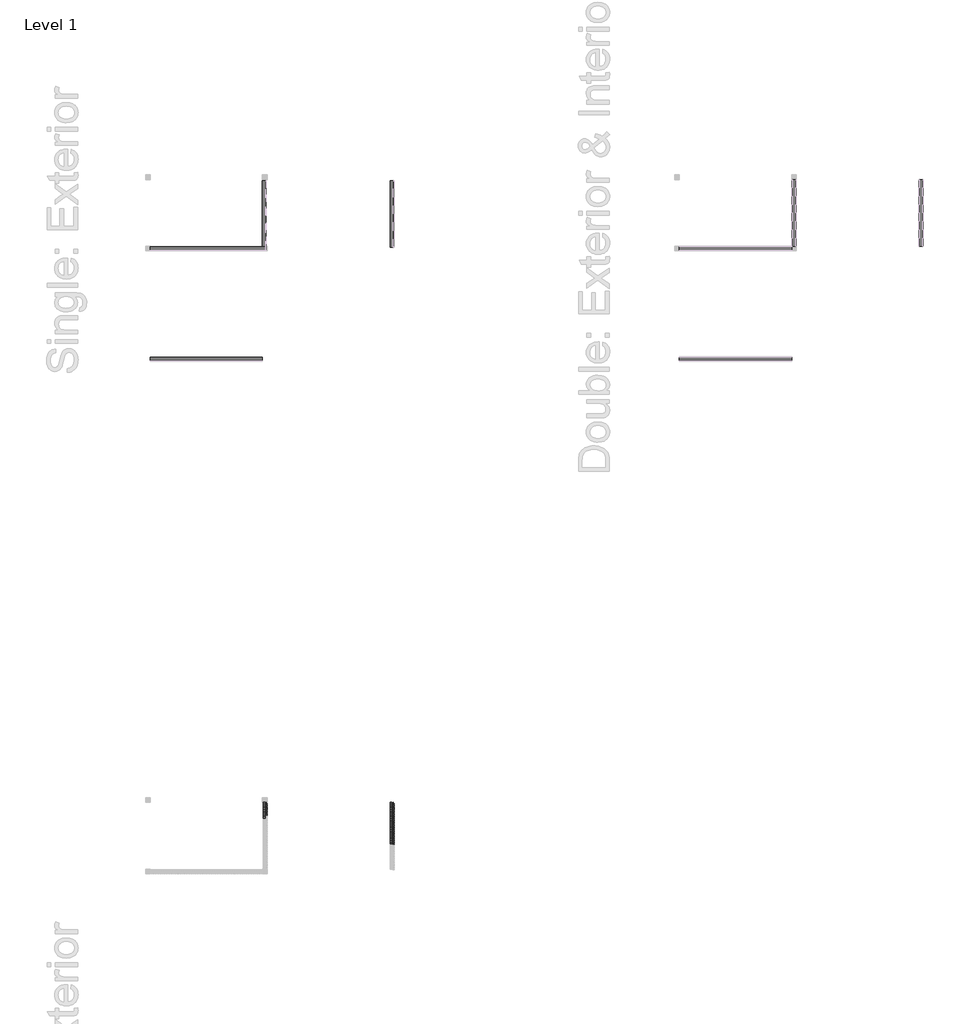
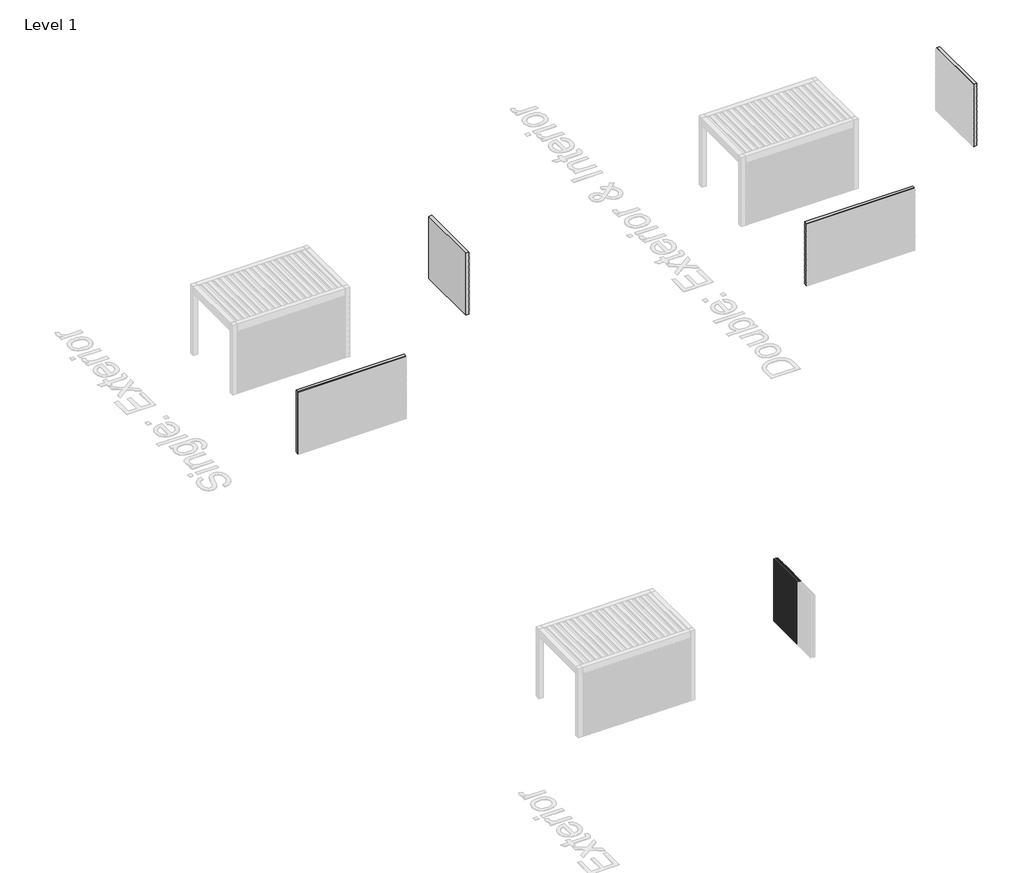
# One storey, part 6 of 69: 40 plates, 30 members.
"""IFC4 building model written with IfcOpenShell, lengths in millimetres."""

from ifc_helpers import new_model, si_unit, origin, origin_with_axes, place, context, project, spatial, polyline, outline, extrude, faceted_brep, transform, mapped, element, save
from components import rectangular_mullion_72383e52, rectangular_mullion_f26adc31

model = new_model("IFC4")

# Units and contexts
model_context = context("Model", 3, world=origin())
ifc_project = project(units=[si_unit("LENGTHUNIT", "METRE", prefix="MILLI")], contexts=[model_context])

# Site, building, storey
site = spatial("IfcSite", under=ifc_project)
building = spatial("IfcBuilding", under=site)
storey = spatial("IfcBuildingStorey", under=building, Name="Level 1", Elevation=0.0)

# Members
placement = place(None, origin())
rectangular_mullion_shape = rectangular_mullion_72383e52(model_context)
element("IfcMember", 1, ObjectType="Rectangular Mullion : Renson_Linarte_LA-B30-01", at=placement, inside=storey, context=model_context, shape_type="MappedRepresentation", body=[
    mapped(rectangular_mullion_shape, transform((215057.0900207, 20048.8290758, 0.0), x_axis=(0.0, -1.0, 0.0), y_axis=(-1.0, 0.0, 0.0), z_axis=(0.0, 0.0, -1.0))),
])
element("IfcMember", 2, ObjectType="Rectangular Mullion : Renson_Linarte_LA-B30-01", at=placement, inside=storey, context=model_context, shape_type="MappedRepresentation", body=[
    mapped(rectangular_mullion_shape, transform((215057.0900207, 20108.8290758, 0.0), x_axis=(0.0, -1.0, 0.0), y_axis=(-1.0, 0.0, 0.0), z_axis=(0.0, 0.0, -1.0))),
])
element("IfcMember", 3, ObjectType="Rectangular Mullion : Renson_Linarte_LA-B30-01", at=placement, inside=storey, context=model_context, shape_type="MappedRepresentation", body=[
    mapped(rectangular_mullion_shape, transform((215057.0900207, 20168.8290758, 0.0), x_axis=(0.0, -1.0, 0.0), y_axis=(-1.0, 0.0, 0.0), z_axis=(0.0, 0.0, -1.0))),
])
element("IfcMember", 4, ObjectType="Rectangular Mullion : Renson_Linarte_LA-B30-01", at=placement, inside=storey, context=model_context, shape_type="MappedRepresentation", body=[
    mapped(rectangular_mullion_shape, transform((215057.0900207, 20228.8290758, 0.0), x_axis=(0.0, -1.0, 0.0), y_axis=(-1.0, 0.0, 0.0), z_axis=(0.0, 0.0, -1.0))),
])
element("IfcMember", 5, ObjectType="Rectangular Mullion : Renson_Linarte_LA-B30-01", at=placement, inside=storey, context=model_context, shape_type="MappedRepresentation", body=[
    mapped(rectangular_mullion_shape, transform((215057.0900207, 20288.8290758, 0.0), x_axis=(0.0, -1.0, 0.0), y_axis=(-1.0, 0.0, 0.0), z_axis=(0.0, 0.0, -1.0))),
])
element("IfcMember", 6, ObjectType="Rectangular Mullion : Renson_Linarte_LA-B30-01", at=placement, inside=storey, context=model_context, shape_type="MappedRepresentation", body=[
    mapped(rectangular_mullion_shape, transform((215057.0900207, 20348.8290758, 0.0), x_axis=(0.0, -1.0, 0.0), y_axis=(-1.0, 0.0, 0.0), z_axis=(0.0, 0.0, -1.0))),
])
element("IfcMember", 7, ObjectType="Rectangular Mullion : Renson_Linarte_LA-B30-01", at=placement, inside=storey, context=model_context, shape_type="MappedRepresentation", body=[
    mapped(rectangular_mullion_shape, transform((215057.0900207, 20408.8290758, 0.0), x_axis=(0.0, -1.0, 0.0), y_axis=(-1.0, 0.0, 0.0), z_axis=(0.0, 0.0, -1.0))),
])
element("IfcMember", 8, ObjectType="Rectangular Mullion : Renson_Linarte_LA-B30-01", at=placement, inside=storey, context=model_context, shape_type="MappedRepresentation", body=[
    mapped(rectangular_mullion_shape, transform((215057.0900207, 20468.8290758, 0.0), x_axis=(0.0, -1.0, 0.0), y_axis=(-1.0, 0.0, 0.0), z_axis=(0.0, 0.0, -1.0))),
])
element("IfcMember", 9, ObjectType="Rectangular Mullion : Renson_Linarte_LA-B30-01", at=placement, inside=storey, context=model_context, shape_type="MappedRepresentation", body=[
    mapped(rectangular_mullion_shape, transform((215057.0900207, 20528.8290758, 0.0), x_axis=(0.0, -1.0, 0.0), y_axis=(-1.0, 0.0, 0.0), z_axis=(0.0, 0.0, -1.0))),
])
element("IfcMember", 10, ObjectType="Rectangular Mullion : Renson_Linarte_LA-B30-01", at=placement, inside=storey, context=model_context, shape_type="MappedRepresentation", body=[
    mapped(rectangular_mullion_shape, transform((215057.0900207, 20588.8290758, 0.0), x_axis=(0.0, -1.0, 0.0), y_axis=(-1.0, 0.0, 0.0), z_axis=(0.0, 0.0, -1.0))),
])
element("IfcMember", 11, ObjectType="Rectangular Mullion : Renson_Linarte_LA-B30-01", at=placement, inside=storey, context=model_context, shape_type="MappedRepresentation", body=[
    mapped(rectangular_mullion_shape, transform((215057.0900207, 20648.8290758, 0.0), x_axis=(0.0, -1.0, 0.0), y_axis=(-1.0, 0.0, 0.0), z_axis=(0.0, 0.0, -1.0))),
])
element("IfcMember", 12, ObjectType="Rectangular Mullion : Renson_Linarte_LA-B30-01", at=placement, inside=storey, context=model_context, shape_type="MappedRepresentation", body=[
    mapped(rectangular_mullion_shape, transform((215057.0900207, 20708.8290758, 0.0), x_axis=(0.0, -1.0, 0.0), y_axis=(-1.0, 0.0, 0.0), z_axis=(0.0, 0.0, -1.0))),
])
element("IfcMember", 13, ObjectType="Rectangular Mullion : Renson_Linarte_LA-B30-01", at=placement, inside=storey, context=model_context, shape_type="MappedRepresentation", body=[
    mapped(rectangular_mullion_shape, transform((215057.0900207, 20768.8290758, 0.0), x_axis=(0.0, -1.0, 0.0), y_axis=(-1.0, 0.0, 0.0), z_axis=(0.0, 0.0, -1.0))),
])
element("IfcMember", 14, ObjectType="Rectangular Mullion : Renson_Linarte_LA-B30-01", at=placement, inside=storey, context=model_context, shape_type="MappedRepresentation", body=[
    mapped(rectangular_mullion_shape, transform((215057.0900207, 20828.8290758, 0.0), x_axis=(0.0, -1.0, 0.0), y_axis=(-1.0, 0.0, 0.0), z_axis=(0.0, 0.0, -1.0))),
])
element("IfcMember", 15, ObjectType="Rectangular Mullion : Renson_Linarte_LA-B30-01", at=placement, inside=storey, context=model_context, shape_type="MappedRepresentation", body=[
    mapped(rectangular_mullion_shape, transform((215057.0900207, 20888.8290758, 0.0), x_axis=(0.0, -1.0, 0.0), y_axis=(-1.0, 0.0, 0.0), z_axis=(0.0, 0.0, -1.0))),
])
element("IfcMember", 16, ObjectType="Rectangular Mullion : Renson_Linarte_LA-B30-01", at=placement, inside=storey, context=model_context, shape_type="MappedRepresentation", body=[
    mapped(rectangular_mullion_shape, transform((215057.0900207, 20948.8290758, 0.0), x_axis=(0.0, -1.0, 0.0), y_axis=(-1.0, 0.0, 0.0), z_axis=(0.0, 0.0, -1.0))),
])
element("IfcMember", 17, ObjectType="Rectangular Mullion : Renson_Linarte_LA-B30-01", at=placement, inside=storey, context=model_context, shape_type="MappedRepresentation", body=[
    mapped(rectangular_mullion_shape, transform((215057.0900207, 21008.8290758, 0.0), x_axis=(0.0, -1.0, 0.0), y_axis=(-1.0, 0.0, 0.0), z_axis=(0.0, 0.0, -1.0))),
])
element("IfcMember", 18, ObjectType="Rectangular Mullion : Renson_Linarte_LA-B30-01", at=placement, inside=storey, context=model_context, shape_type="MappedRepresentation", body=[
    mapped(rectangular_mullion_shape, transform((215057.0900207, 21068.8290758, 0.0), x_axis=(0.0, -1.0, 0.0), y_axis=(-1.0, 0.0, 0.0), z_axis=(0.0, 0.0, -1.0))),
])
element("IfcMember", 19, ObjectType="Rectangular Mullion : Renson_Linarte_LA-B30-01", at=placement, inside=storey, context=model_context, shape_type="MappedRepresentation", body=[
    mapped(rectangular_mullion_shape, transform((215057.0900207, 21128.8290758, 0.0), x_axis=(0.0, -1.0, 0.0), y_axis=(-1.0, 0.0, 0.0), z_axis=(0.0, 0.0, -1.0))),
])
element("IfcMember", 20, ObjectType="Rectangular Mullion : Renson_Linarte_LA-B30-01", at=placement, inside=storey, context=model_context, shape_type="MappedRepresentation", body=[
    mapped(rectangular_mullion_shape, transform((215057.0900207, 21188.8290758, 0.0), x_axis=(0.0, -1.0, 0.0), y_axis=(-1.0, 0.0, 0.0), z_axis=(0.0, 0.0, -1.0))),
])
element("IfcMember", 21, ObjectType="Rectangular Mullion : Renson_Linarte_LA-B30-01", at=placement, inside=storey, context=model_context, shape_type="MappedRepresentation", body=[
    mapped(rectangular_mullion_shape, transform((215057.0900207, 21248.8290758, 0.0), x_axis=(0.0, -1.0, 0.0), y_axis=(-1.0, 0.0, 0.0), z_axis=(0.0, 0.0, -1.0))),
])
element("IfcMember", 22, ObjectType="Rectangular Mullion : Renson_Linarte_LA-B30-01", at=placement, inside=storey, context=model_context, shape_type="MappedRepresentation", body=[
    mapped(rectangular_mullion_shape, transform((215057.0900207, 21308.8290758, 0.0), x_axis=(0.0, -1.0, 0.0), y_axis=(-1.0, 0.0, 0.0), z_axis=(0.0, 0.0, -1.0))),
])
element("IfcMember", 23, ObjectType="Rectangular Mullion : Renson_Linarte_LA-B30-01", at=placement, inside=storey, context=model_context, shape_type="MappedRepresentation", body=[
    mapped(rectangular_mullion_shape, transform((210877.4749426, 21008.8290758, 0.0), x_axis=(0.0, -1.0, 0.0), y_axis=(-1.0, 0.0, 0.0), z_axis=(0.0, 0.0, -1.0))),
])
element("IfcMember", 24, ObjectType="Rectangular Mullion : Renson_Linarte_LA-B30-01", at=placement, inside=storey, context=model_context, shape_type="MappedRepresentation", body=[
    mapped(rectangular_mullion_shape, transform((210877.4749426, 21068.8290758, 0.0), x_axis=(0.0, -1.0, 0.0), y_axis=(-1.0, 0.0, 0.0), z_axis=(0.0, 0.0, -1.0))),
])
element("IfcMember", 25, ObjectType="Rectangular Mullion : Renson_Linarte_LA-B30-01", at=placement, inside=storey, context=model_context, shape_type="MappedRepresentation", body=[
    mapped(rectangular_mullion_shape, transform((210877.4749426, 21128.8290758, 0.0), x_axis=(0.0, -1.0, 0.0), y_axis=(-1.0, 0.0, 0.0), z_axis=(0.0, 0.0, -1.0))),
])
element("IfcMember", 26, ObjectType="Rectangular Mullion : Renson_Linarte_LA-B30-01", at=placement, inside=storey, context=model_context, shape_type="MappedRepresentation", body=[
    mapped(rectangular_mullion_shape, transform((210877.4749426, 21188.8290758, 0.0), x_axis=(0.0, -1.0, 0.0), y_axis=(-1.0, 0.0, 0.0), z_axis=(0.0, 0.0, -1.0))),
])
element("IfcMember", 27, ObjectType="Rectangular Mullion : Renson_Linarte_LA-B30-01", at=placement, inside=storey, context=model_context, shape_type="MappedRepresentation", body=[
    mapped(rectangular_mullion_shape, transform((210877.4749426, 21248.8290758, 0.0), x_axis=(0.0, -1.0, 0.0), y_axis=(-1.0, 0.0, 0.0), z_axis=(0.0, 0.0, -1.0))),
])
element("IfcMember", 28, ObjectType="Rectangular Mullion : Renson_Linarte_LA-B30-01", at=placement, inside=storey, context=model_context, shape_type="MappedRepresentation", body=[
    mapped(rectangular_mullion_shape, transform((210877.4749426, 21308.8290758, 0.0), x_axis=(0.0, -1.0, 0.0), y_axis=(-1.0, 0.0, 0.0), z_axis=(0.0, 0.0, -1.0))),
])
rectangular_mullion_2_shape = rectangular_mullion_f26adc31(model_context)
element("IfcMember", 29, ObjectType="Rectangular Mullion : Renson_Linarte_LA-B30-01", at=placement, inside=storey, context=model_context, shape_type="MappedRepresentation", body=[
    mapped(rectangular_mullion_2_shape, transform((215057.0900207, 21368.8290761, 2250.0), x_axis=(0.0, 1.0, 0.0), y_axis=(-1.0, 0.0, 0.0), z_axis=(0.0, 0.0, 1.0))),
])
element("IfcMember", 30, ObjectType="Rectangular Mullion : Renson_Linarte_LA-B30-01", at=placement, inside=storey, context=model_context, shape_type="MappedRepresentation", body=[
    mapped(rectangular_mullion_2_shape, transform((210877.4749426, 21368.8290761, 2250.0), x_axis=(0.0, 1.0, 0.0), y_axis=(-1.0, 0.0, 0.0), z_axis=(0.0, 0.0, 1.0))),
])

# Plates
element("IfcPlate", 31, ObjectType="Linius - L.033.01_renson_single", at=placement, inside=storey, context=model_context, shape_type="SweptSolid", body=[
    extrude(outline(polyline([(207125.5749426, 36024.4955424), (210825.5749426, 36024.4955424), (210825.5749426, 35915.4955424), (207125.5749426, 35915.4955424), (207125.5749426, 36024.4955424)])), origin_with_axes(), (0.0, 0.0, 1.0), 2250.0),
])
element("IfcPlate", 32, ObjectType="Linius - L.033.01_Renson_double", at=placement, inside=storey, context=model_context, shape_type="Brep", body=[
    faceted_brep([(228250.5749426, 36024.4955424, 0.0), (224550.5749426, 36024.4955424, 0.0), (224550.5749426, 36024.4955424, 1951.0345698), (224550.5749426, 36024.4955424, 1964.7), (224550.5749426, 36024.4955424, 2250.0), (228250.5749426, 36024.4955424, 2250.0), (228250.5749426, 36024.4955424, 1964.7), (228250.5749426, 36024.4955424, 1951.0345698), (228250.5749426, 35915.4955424, 0.0), (228250.5749426, 35915.4955424, 2250.0), (224550.5749426, 35915.4955424, 2250.0), (224550.5749426, 35915.4955424, 0.0)], [[[0, 1, 2, 3, 4, 5, 6, 7]], [[8, 9, 10, 11]], [[1, 0, 8, 11]], [[4, 3, 2, 1, 11, 10]], [[5, 4, 10, 9]], [[0, 7, 6, 5, 9, 8]]]),
])
element("IfcPlate", 33, ObjectType="Linius - L.033.01_renson_single", at=placement, inside=storey, context=model_context, shape_type="Brep", body=[
    faceted_brep([(210934.0900207, 39661.1593685, 0.0), (210825.0900207, 39661.1593685, 0.0), (207125.5749426, 39661.1593685, 0.0), (207125.5749426, 39661.1593685, 2250.0), (210825.0900207, 39661.1593685, 2250.0), (210934.0900207, 39661.1593685, 2250.0), (207125.5749426, 39552.1593685, 0.0), (210934.0900207, 39552.1593685, 0.0), (210934.0900207, 39552.1593685, 2250.0), (207125.5749426, 39552.1593685, 2250.0)], [[[0, 1, 2, 3, 4, 5]], [[6, 7, 8, 9]], [[2, 1, 0, 7, 6]], [[3, 2, 6, 9]], [[5, 4, 3, 9, 8]], [[0, 5, 8, 7]]]),
])
element("IfcPlate", 34, ObjectType="Linius - L.033.01_Renson_double", at=placement, inside=storey, context=model_context, shape_type="Brep", body=[
    faceted_brep([(228250.5749426, 39651.1593685, 0.0), (224550.5749426, 39651.1593685, 0.0), (224550.5749426, 39651.1593685, 1951.0345698), (224550.5749426, 39651.1593685, 1964.7), (224550.5749426, 39651.1593685, 2250.0), (228250.5749426, 39651.1593685, 2250.0), (228250.5749426, 39651.1593685, 1964.7), (228250.5749426, 39651.1593685, 1951.0345698), (228250.5749426, 39542.1593685, 0.0), (228250.5749426, 39542.1593685, 2250.0), (224550.5749426, 39542.1593685, 2250.0), (224550.5749426, 39542.1593685, 0.0)], [[[0, 1, 2, 3, 4, 5, 6, 7]], [[8, 9, 10, 11]], [[1, 0, 8, 11]], [[4, 3, 2, 1, 11, 10]], [[5, 4, 10, 9]], [[0, 7, 6, 5, 9, 8]]]),
])
element("IfcPlate", 35, ObjectType="Linius - L.033.01_renson_single", at=placement, inside=storey, context=model_context, shape_type="SweptSolid", body=[
    extrude(outline(polyline([(215025.0900207, 39638.6636399), (215025.0900207, 41838.6636399), (215134.0900207, 41838.6636399), (215134.0900207, 39638.6636399), (215025.0900207, 39638.6636399)])), origin_with_axes(), (0.0, 0.0, 1.0), 2250.0),
])
element("IfcPlate", 36, ObjectType="Linius - L.033.01_Renson_double", at=placement, inside=storey, context=model_context, shape_type="Brep", body=[
    faceted_brep([(232450.0900207, 41872.1593685, 0.0), (232450.0900207, 39672.1593685, 0.0), (232450.0900207, 39672.1593685, 1951.0345698), (232450.0900207, 39672.1593685, 1964.7), (232450.0900207, 39672.1593685, 2250.0), (232450.0900207, 41872.1593685, 2250.0), (232450.0900207, 41872.1593685, 1964.7), (232450.0900207, 41872.1593685, 1951.0345698), (232559.0900207, 41872.1593685, 0.0), (232559.0900207, 41872.1593685, 2250.0), (232559.0900207, 39672.1593685, 2250.0), (232559.0900207, 39672.1593685, 0.0)], [[[0, 1, 2, 3, 4, 5, 6, 7]], [[8, 9, 10, 11]], [[1, 0, 8, 11]], [[4, 3, 2, 1, 11, 10]], [[5, 4, 10, 9]], [[0, 7, 6, 5, 9, 8]]]),
])
element("IfcPlate", 37, ObjectType="Linius - L.033.01_Renson_double", at=placement, inside=storey, context=model_context, shape_type="Brep", body=[
    faceted_brep([(228270.0900207, 41872.1593685, 0.0), (228270.0900207, 39672.1593685, 0.0), (228270.0900207, 39672.1593685, 1951.0345698), (228270.0900207, 39672.1593685, 1964.7), (228270.0900207, 39672.1593685, 2250.0), (228270.0900207, 41872.1593685, 2250.0), (228270.0900207, 41872.1593685, 1964.7), (228270.0900207, 41872.1593685, 1951.0345698), (228379.0900207, 41872.1593685, 0.0), (228379.0900207, 41872.1593685, 2250.0), (228379.0900207, 39672.1593685, 2250.0), (228379.0900207, 39672.1593685, 0.0)], [[[0, 1, 2, 3, 4, 5, 6, 7]], [[8, 9, 10, 11]], [[1, 0, 8, 11]], [[4, 3, 2, 1, 11, 10]], [[5, 4, 10, 9]], [[0, 7, 6, 5, 9, 8]]]),
])
element("IfcPlate", 38, ObjectType="Linius - L.033.01_renson_single", at=placement, inside=storey, context=model_context, shape_type="SweptSolid", body=[
    extrude(outline(polyline([(210825.0900207, 39661.1593685), (210825.0900207, 41838.6636399), (210934.0900207, 41838.6636399), (210934.0900207, 39661.1593685), (210825.0900207, 39661.1593685)])), origin_with_axes(), (0.0, 0.0, 1.0), 2250.0),
])
element("IfcPlate", 39, ObjectType="Base - 64mm", at=placement, inside=storey, context=model_context, shape_type="SweptSolid", body=[
    extrude(outline(polyline([(215025.0900207, 19988.8290758), (215025.0900207, 20048.8290758), (215089.0900207, 20048.8290758), (215089.0900207, 19988.8290758), (215025.0900207, 19988.8290758)])), origin_with_axes(), (0.0, 0.0, 1.0), 2250.0),
])
element("IfcPlate", 40, ObjectType="Base - 64mm", at=placement, inside=storey, context=model_context, shape_type="SweptSolid", body=[
    extrude(outline(polyline([(215025.0900207, 20048.8290758), (215025.0900207, 20108.8290758), (215089.0900207, 20108.8290758), (215089.0900207, 20048.8290758), (215025.0900207, 20048.8290758)])), origin_with_axes(), (0.0, 0.0, 1.0), 2250.0),
])
element("IfcPlate", 41, ObjectType="Base - 64mm", at=placement, inside=storey, context=model_context, shape_type="SweptSolid", body=[
    extrude(outline(polyline([(215025.0900207, 20108.8290758), (215025.0900207, 20168.8290758), (215089.0900207, 20168.8290758), (215089.0900207, 20108.8290758), (215025.0900207, 20108.8290758)])), origin_with_axes(), (0.0, 0.0, 1.0), 2250.0),
])
element("IfcPlate", 42, ObjectType="Base - 64mm", at=placement, inside=storey, context=model_context, shape_type="SweptSolid", body=[
    extrude(outline(polyline([(215025.0900207, 20168.8290758), (215025.0900207, 20228.8290758), (215089.0900207, 20228.8290758), (215089.0900207, 20168.8290758), (215025.0900207, 20168.8290758)])), origin_with_axes(), (0.0, 0.0, 1.0), 2250.0),
])
element("IfcPlate", 43, ObjectType="Base - 64mm", at=placement, inside=storey, context=model_context, shape_type="SweptSolid", body=[
    extrude(outline(polyline([(215025.0900207, 20228.8290758), (215025.0900207, 20288.8290758), (215089.0900207, 20288.8290758), (215089.0900207, 20228.8290758), (215025.0900207, 20228.8290758)])), origin_with_axes(), (0.0, 0.0, 1.0), 2250.0),
])
element("IfcPlate", 44, ObjectType="Base - 64mm", at=placement, inside=storey, context=model_context, shape_type="SweptSolid", body=[
    extrude(outline(polyline([(215025.0900207, 20288.8290758), (215025.0900207, 20348.8290758), (215089.0900207, 20348.8290758), (215089.0900207, 20288.8290758), (215025.0900207, 20288.8290758)])), origin_with_axes(), (0.0, 0.0, 1.0), 2250.0),
])
element("IfcPlate", 45, ObjectType="Base - 64mm", at=placement, inside=storey, context=model_context, shape_type="SweptSolid", body=[
    extrude(outline(polyline([(215025.0900207, 20348.8290758), (215025.0900207, 20408.8290758), (215089.0900207, 20408.8290758), (215089.0900207, 20348.8290758), (215025.0900207, 20348.8290758)])), origin_with_axes(), (0.0, 0.0, 1.0), 2250.0),
])
element("IfcPlate", 46, ObjectType="Base - 64mm", at=placement, inside=storey, context=model_context, shape_type="SweptSolid", body=[
    extrude(outline(polyline([(215025.0900207, 20408.8290758), (215025.0900207, 20468.8290758), (215089.0900207, 20468.8290758), (215089.0900207, 20408.8290758), (215025.0900207, 20408.8290758)])), origin_with_axes(), (0.0, 0.0, 1.0), 2250.0),
])
element("IfcPlate", 47, ObjectType="Base - 64mm", at=placement, inside=storey, context=model_context, shape_type="SweptSolid", body=[
    extrude(outline(polyline([(215025.0900207, 20468.8290758), (215025.0900207, 20528.8290758), (215089.0900207, 20528.8290758), (215089.0900207, 20468.8290758), (215025.0900207, 20468.8290758)])), origin_with_axes(), (0.0, 0.0, 1.0), 2250.0),
])
element("IfcPlate", 48, ObjectType="Base - 64mm", at=placement, inside=storey, context=model_context, shape_type="SweptSolid", body=[
    extrude(outline(polyline([(215025.0900207, 20528.8290758), (215025.0900207, 20588.8290758), (215089.0900207, 20588.8290758), (215089.0900207, 20528.8290758), (215025.0900207, 20528.8290758)])), origin_with_axes(), (0.0, 0.0, 1.0), 2250.0),
])
element("IfcPlate", 49, ObjectType="Base - 64mm", at=placement, inside=storey, context=model_context, shape_type="SweptSolid", body=[
    extrude(outline(polyline([(215025.0900207, 20588.8290758), (215025.0900207, 20648.8290758), (215089.0900207, 20648.8290758), (215089.0900207, 20588.8290758), (215025.0900207, 20588.8290758)])), origin_with_axes(), (0.0, 0.0, 1.0), 2250.0),
])
element("IfcPlate", 50, ObjectType="Base - 64mm", at=placement, inside=storey, context=model_context, shape_type="SweptSolid", body=[
    extrude(outline(polyline([(215025.0900207, 20648.8290758), (215025.0900207, 20708.8290758), (215089.0900207, 20708.8290758), (215089.0900207, 20648.8290758), (215025.0900207, 20648.8290758)])), origin_with_axes(), (0.0, 0.0, 1.0), 2250.0),
])
element("IfcPlate", 51, ObjectType="Base - 64mm", at=placement, inside=storey, context=model_context, shape_type="SweptSolid", body=[
    extrude(outline(polyline([(215025.0900207, 20708.8290758), (215025.0900207, 20768.8290758), (215089.0900207, 20768.8290758), (215089.0900207, 20708.8290758), (215025.0900207, 20708.8290758)])), origin_with_axes(), (0.0, 0.0, 1.0), 2250.0),
])
element("IfcPlate", 52, ObjectType="Base - 64mm", at=placement, inside=storey, context=model_context, shape_type="SweptSolid", body=[
    extrude(outline(polyline([(215025.0900207, 20768.8290758), (215025.0900207, 20828.8290758), (215089.0900207, 20828.8290758), (215089.0900207, 20768.8290758), (215025.0900207, 20768.8290758)])), origin_with_axes(), (0.0, 0.0, 1.0), 2250.0),
])
element("IfcPlate", 53, ObjectType="Base - 64mm", at=placement, inside=storey, context=model_context, shape_type="SweptSolid", body=[
    extrude(outline(polyline([(215025.0900207, 20828.8290758), (215025.0900207, 20888.8290758), (215089.0900207, 20888.8290758), (215089.0900207, 20828.8290758), (215025.0900207, 20828.8290758)])), origin_with_axes(), (0.0, 0.0, 1.0), 2250.0),
])
element("IfcPlate", 54, ObjectType="Base - 64mm", at=placement, inside=storey, context=model_context, shape_type="SweptSolid", body=[
    extrude(outline(polyline([(215025.0900207, 20888.8290758), (215025.0900207, 20948.8290758), (215089.0900207, 20948.8290758), (215089.0900207, 20888.8290758), (215025.0900207, 20888.8290758)])), origin_with_axes(), (0.0, 0.0, 1.0), 2250.0),
])
element("IfcPlate", 55, ObjectType="Base - 64mm", at=placement, inside=storey, context=model_context, shape_type="SweptSolid", body=[
    extrude(outline(polyline([(215025.0900207, 20948.8290758), (215025.0900207, 21008.8290758), (215089.0900207, 21008.8290758), (215089.0900207, 20948.8290758), (215025.0900207, 20948.8290758)])), origin_with_axes(), (0.0, 0.0, 1.0), 2250.0),
])
element("IfcPlate", 56, ObjectType="Base - 64mm", at=placement, inside=storey, context=model_context, shape_type="SweptSolid", body=[
    extrude(outline(polyline([(215025.0900207, 21008.8290758), (215025.0900207, 21068.8290758), (215089.0900207, 21068.8290758), (215089.0900207, 21008.8290758), (215025.0900207, 21008.8290758)])), origin_with_axes(), (0.0, 0.0, 1.0), 2250.0),
])
element("IfcPlate", 57, ObjectType="Base - 64mm", at=placement, inside=storey, context=model_context, shape_type="SweptSolid", body=[
    extrude(outline(polyline([(215025.0900207, 21068.8290758), (215025.0900207, 21128.8290758), (215089.0900207, 21128.8290758), (215089.0900207, 21068.8290758), (215025.0900207, 21068.8290758)])), origin_with_axes(), (0.0, 0.0, 1.0), 2250.0),
])
element("IfcPlate", 58, ObjectType="Base - 64mm", at=placement, inside=storey, context=model_context, shape_type="SweptSolid", body=[
    extrude(outline(polyline([(215025.0900207, 21128.8290758), (215025.0900207, 21188.8290758), (215089.0900207, 21188.8290758), (215089.0900207, 21128.8290758), (215025.0900207, 21128.8290758)])), origin_with_axes(), (0.0, 0.0, 1.0), 2250.0),
])
element("IfcPlate", 59, ObjectType="Base - 64mm", at=placement, inside=storey, context=model_context, shape_type="SweptSolid", body=[
    extrude(outline(polyline([(215025.0900207, 21188.8290758), (215025.0900207, 21248.8290758), (215089.0900207, 21248.8290758), (215089.0900207, 21188.8290758), (215025.0900207, 21188.8290758)])), origin_with_axes(), (0.0, 0.0, 1.0), 2250.0),
])
element("IfcPlate", 60, ObjectType="Base - 64mm", at=placement, inside=storey, context=model_context, shape_type="SweptSolid", body=[
    extrude(outline(polyline([(215025.0900207, 21248.8290758), (215025.0900207, 21308.8290758), (215089.0900207, 21308.8290758), (215089.0900207, 21248.8290758), (215025.0900207, 21248.8290758)])), origin_with_axes(), (0.0, 0.0, 1.0), 2250.0),
])
element("IfcPlate", 61, ObjectType="Base - 64mm", at=placement, inside=storey, context=model_context, shape_type="SweptSolid", body=[
    extrude(outline(polyline([(215025.0900207, 21308.8290758), (215025.0900207, 21368.8290761), (215089.0900207, 21368.8290761), (215089.0900207, 21308.8290758), (215025.0900207, 21308.8290758)])), origin_with_axes(), (0.0, 0.0, 1.0), 2250.0),
])
element("IfcPlate", 62, ObjectType="Base - 64mm", at=placement, inside=storey, context=model_context, shape_type="SweptSolid", body=[
    extrude(outline(polyline([(210845.4749426, 20828.8290758), (210845.4749426, 20888.8290758), (210909.4749426, 20888.8290758), (210909.4749426, 20828.8290758), (210845.4749426, 20828.8290758)])), origin_with_axes(), (0.0, 0.0, 1.0), 2250.0),
])
element("IfcPlate", 63, ObjectType="Base - 64mm", at=placement, inside=storey, context=model_context, shape_type="SweptSolid", body=[
    extrude(outline(polyline([(210845.4749426, 20888.8290758), (210845.4749426, 20948.8290758), (210909.4749426, 20948.8290758), (210909.4749426, 20888.8290758), (210845.4749426, 20888.8290758)])), origin_with_axes(), (0.0, 0.0, 1.0), 2250.0),
])
element("IfcPlate", 64, ObjectType="Base - 64mm", at=placement, inside=storey, context=model_context, shape_type="SweptSolid", body=[
    extrude(outline(polyline([(210845.4749426, 20948.8290758), (210845.4749426, 21008.8290758), (210909.4749426, 21008.8290758), (210909.4749426, 20948.8290758), (210845.4749426, 20948.8290758)])), origin_with_axes(), (0.0, 0.0, 1.0), 2250.0),
])
element("IfcPlate", 65, ObjectType="Base - 64mm", at=placement, inside=storey, context=model_context, shape_type="SweptSolid", body=[
    extrude(outline(polyline([(210845.4749426, 21008.8290758), (210845.4749426, 21068.8290758), (210909.4749426, 21068.8290758), (210909.4749426, 21008.8290758), (210845.4749426, 21008.8290758)])), origin_with_axes(), (0.0, 0.0, 1.0), 2250.0),
])
element("IfcPlate", 66, ObjectType="Base - 64mm", at=placement, inside=storey, context=model_context, shape_type="SweptSolid", body=[
    extrude(outline(polyline([(210845.4749426, 21068.8290758), (210845.4749426, 21128.8290758), (210909.4749426, 21128.8290758), (210909.4749426, 21068.8290758), (210845.4749426, 21068.8290758)])), origin_with_axes(), (0.0, 0.0, 1.0), 2250.0),
])
element("IfcPlate", 67, ObjectType="Base - 64mm", at=placement, inside=storey, context=model_context, shape_type="SweptSolid", body=[
    extrude(outline(polyline([(210845.4749426, 21128.8290758), (210845.4749426, 21188.8290758), (210909.4749426, 21188.8290758), (210909.4749426, 21128.8290758), (210845.4749426, 21128.8290758)])), origin_with_axes(), (0.0, 0.0, 1.0), 2250.0),
])
element("IfcPlate", 68, ObjectType="Base - 64mm", at=placement, inside=storey, context=model_context, shape_type="SweptSolid", body=[
    extrude(outline(polyline([(210845.4749426, 21188.8290758), (210845.4749426, 21248.8290758), (210909.4749426, 21248.8290758), (210909.4749426, 21188.8290758), (210845.4749426, 21188.8290758)])), origin_with_axes(), (0.0, 0.0, 1.0), 2250.0),
])
element("IfcPlate", 69, ObjectType="Base - 64mm", at=placement, inside=storey, context=model_context, shape_type="SweptSolid", body=[
    extrude(outline(polyline([(210845.4749426, 21248.8290758), (210845.4749426, 21308.8290758), (210909.4749426, 21308.8290758), (210909.4749426, 21248.8290758), (210845.4749426, 21248.8290758)])), origin_with_axes(), (0.0, 0.0, 1.0), 2250.0),
])
element("IfcPlate", 70, ObjectType="Base - 64mm", at=placement, inside=storey, context=model_context, shape_type="SweptSolid", body=[
    extrude(outline(polyline([(210845.4749426, 21308.8290758), (210845.4749426, 21368.8290761), (210909.4749426, 21368.8290761), (210909.4749426, 21308.8290758), (210845.4749426, 21308.8290758)])), origin_with_axes(), (0.0, 0.0, 1.0), 2250.0),
])

save(model, "model.ifc")
